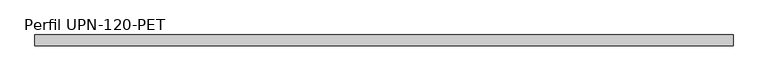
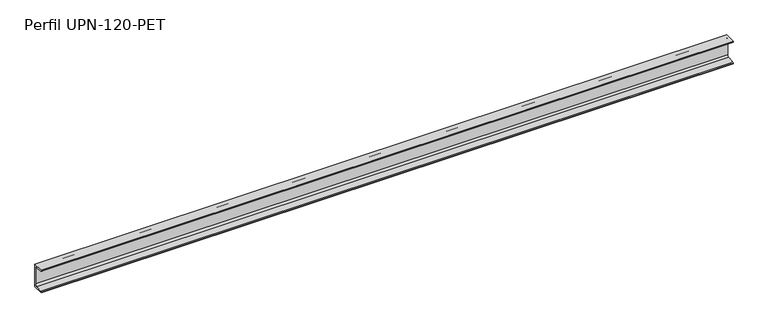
"""IFC4 building model written with IfcOpenShell, lengths in millimetres: beam geometry, ARES-I-AC-UPN-Perfil acero-PET : Perfil UPN-120-PET."""

from ifc_helpers import new_model, si_unit, point, frame, frame_2d, origin, place, context, project, spatial, polyline, circle_curve, trimmed, segment, composite_curve, outline, extrude, source, transform, mapped, element, save


def perfil_upn_120_pet_00277be9(model_context):
    return source(origin(), model_context, "Body", "SweptSolid", [
        extrude(outline(composite_curve([segment(polyline([(16.0, 60.0), (16.0, -60.0), (-39.0, -60.0), (-39.0, -57.354377)]), True, "CONTINUOUS"), segment(trimmed(circle_curve(frame_2d((-34.5, -57.354377)), 4.5), [point((-39.0, -57.354377))], [point((-34.8588535, -52.8687083))], False, "CARTESIAN"), True, "CONTINUOUS"), segment(polyline([(-34.8588535, -52.8687083), (0.717707, -50.0225834)]), True, "CONTINUOUS"), segment(trimmed(circle_curve(frame_2d((0.0, -41.0512459)), 9.0), [point((0.717707, -50.0225834))], [point((9.0, -41.0512459))], True, "CARTESIAN"), True, "CONTINUOUS"), segment(polyline([(9.0, -41.0512459), (9.0, 41.0512459)]), True, "CONTINUOUS"), segment(trimmed(circle_curve(frame_2d((0.0, 41.0512459)), 9.0), [point((9.0, 41.0512459))], [point((0.717707, 50.0225834))], True, "CARTESIAN"), True, "CONTINUOUS"), segment(polyline([(0.717707, 50.0225834), (-34.8588535, 52.8687083)]), True, "CONTINUOUS"), segment(trimmed(circle_curve(frame_2d((-34.5, 57.354377)), 4.5), [point((-34.8588535, 52.8687083))], [point((-39.0, 57.354377))], False, "CARTESIAN"), True, "CONTINUOUS"), segment(polyline([(-39.0, 57.354377), (-39.0, 60.0), (16.0, 60.0)]), True, "CONTINUOUS")], self_intersect=False)), frame((-1734.0, 0.0, 0.0), z_axis=(1.0, 0.0, 0.0), x_axis=(0.0, 1.0, 0.0)), (0.0, 0.0, 1.0), 3468.0),
    ])


if __name__ == "__main__":
    model = new_model("IFC4")
    model_context = context("Model", 3, world=origin())
    ifc_project = project(units=[si_unit("LENGTHUNIT", "METRE", prefix="MILLI")], contexts=[model_context])
    site = spatial("IfcSite", under=ifc_project)
    building = spatial("IfcBuilding", under=site)
    placement = place(None, origin())
    perfil_upn_120_pet_shape = perfil_upn_120_pet_00277be9(model_context)
    element("IfcBeam", 1, ObjectType="ARES-I-AC-UPN-Perfil acero-PET : Perfil UPN-120-PET", at=placement, inside=building, context=model_context, shape_type="MappedRepresentation", body=[
        mapped(perfil_upn_120_pet_shape, transform((0.0, 0.0, 0.0), x_axis=(1.0, 0.0, 0.0), y_axis=(0.0, 1.0, 0.0), z_axis=(0.0, 0.0, 1.0))),
    ])
    save(model, "model.ifc")
